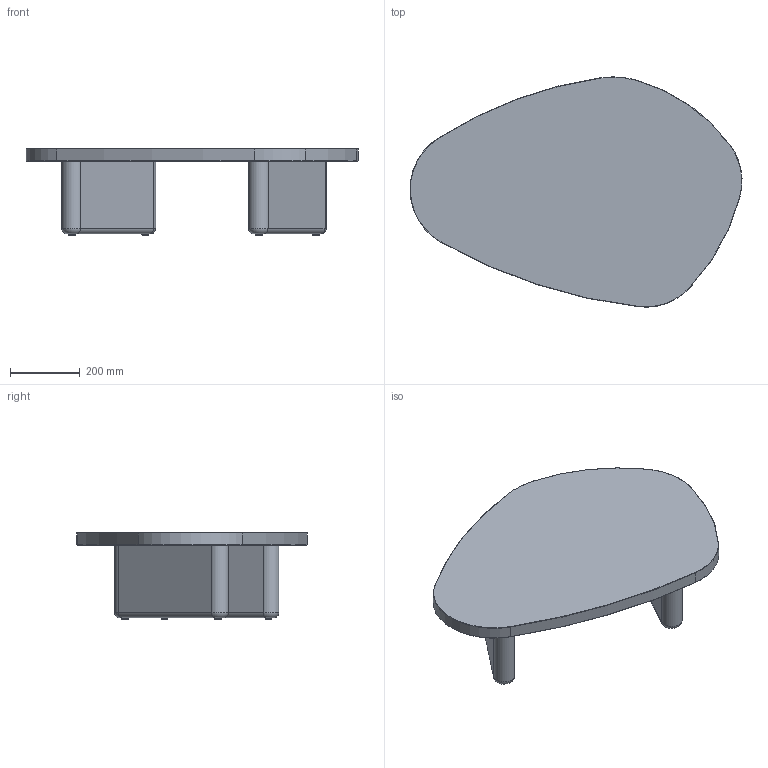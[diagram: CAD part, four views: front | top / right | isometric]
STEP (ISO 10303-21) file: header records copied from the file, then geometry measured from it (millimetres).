
FILE_DESCRIPTION(/* description */ ('Unknown'),/* implementation_level */ '2;1');
FILE_NAME(/* name */ 'MIN005-ORGANIC_SMALL-r-C',/* time_stamp */ '2024-07-15T07:45:03+10:00',/* author */ ('Unknown'),/* organization */ ('Unknown'),/* preprocessor_version */ 'ST-DEVELOPER v16.7',/* originating_system */ 'Solid Edge',/* authorisation */ 'Unknown');
FILE_SCHEMA (('AUTOMOTIVE_DESIGN {1 0 10303 214 3 1 1}'));
Length unit declared in the file: millimetre
Products named in the file (7): MIN005-ORGANIC_SMALL-r-C; PLASTIC_NAIL_GLIDE_MIN; MIN109-LEG_BRKT-r-C; MIN110-LEG_400Lx209H-r-C; M6X20_CSK_HEX; MIN111-ORGANIC_TOP_SML-r-B; CSK TORX WOOD SCREW M8X80 
Assembly tree (27 placements, depth 2):
  MIN005-ORGANIC_SMALL-r-C
    PLASTIC_NAIL_GLIDE_MIN  x4
    MIN109-LEG_BRKT-r-C  x4
    MIN110-LEG_400Lx209H-r-C  x2
    M6X20_CSK_HEX  x8
    MIN111-ORGANIC_TOP_SML-r-B
    CSK TORX WOOD SCREW M8X80   x8
Bounding box: 954.17 x 661.85 x 250 mm (x, y, z)
Volume: 26274702.5 mm3; surface area: 1542716.8 mm2
Topology: 27 solids, 27 shells, 778 faces, 1788 edges, 1096 vertices
Faces by surface type: plane 402, cylinder 208, cone 104, torus 56, sphere 8
Full cylindrical faces by diameter (mm): 1 x4, 3.5 x8, 4 x8, 6 x16, 7 x8, 8 x8, 10 x8, 11.7 x8, 15 x8, 19 x4
Entity records: 4994 total; most frequent: DIRECTION 904, CARTESIAN_POINT 797, ORIENTED_EDGE 664, AXIS2_PLACEMENT_3D 381, EDGE_CURVE 332, EDGE_LOOP 240, FACE_BOUND 240, VERTEX_POINT 226
